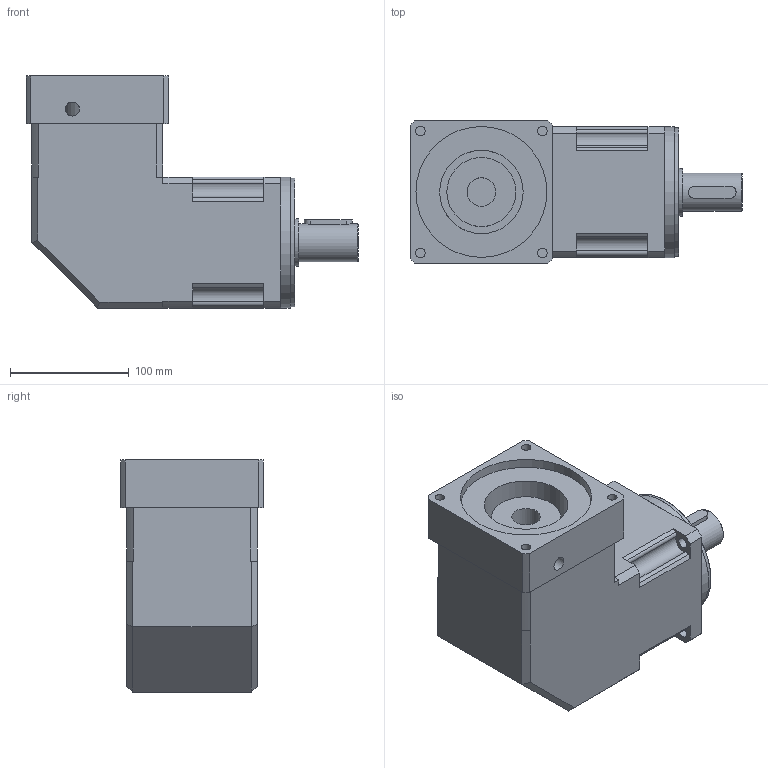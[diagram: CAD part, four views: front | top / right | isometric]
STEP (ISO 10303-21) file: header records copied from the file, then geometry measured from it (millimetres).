
FILE_DESCRIPTION(/* description */ (''),/* implementation_level */ '2;1');
FILE_NAME(/* name */ 'KVX115-1-158.stp',/* time_stamp */ '2019-08-18T19:50:16+08:00',/* author */ (''),/* organization */ (''),/* preprocessor_version */ 'ST-DEVELOPER v16',/* originating_system */ 'SIEMENS PLM Software NX 10.0',/* authorisation */ '');
FILE_SCHEMA (('CONFIG_CONTROL_DESIGN'));
Length unit declared in the file: millimetre
Products named in the file (1): KVX115-1-158
Bounding box: 279 x 120 x 195 mm (x, y, z)
Volume: 3390781.8 mm3; surface area: 180607.6 mm2
Topology: 1 solids, 1 shells, 113 faces, 279 edges, 181 vertices
Faces by surface type: cylinder 56, plane 54, cone 2, torus 1
Full cylindrical faces by diameter (mm): 8 x4, 8.5 x1, 9 x4, 11.838 x1, 24 x1, 32 x1, 40 x1, 58 x1, 70.1 x1, 108 x1, 110 x2
Entity records: 3367 total; most frequent: DIRECTION 593, CARTESIAN_POINT 585, ORIENTED_EDGE 508, EDGE_CURVE 254, AXIS2_PLACEMENT_3D 228, VERTEX_POINT 178, EDGE_LOOP 157, LINE 137
